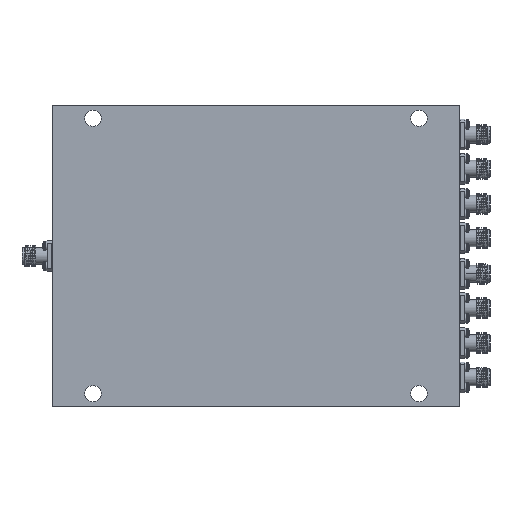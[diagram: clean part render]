
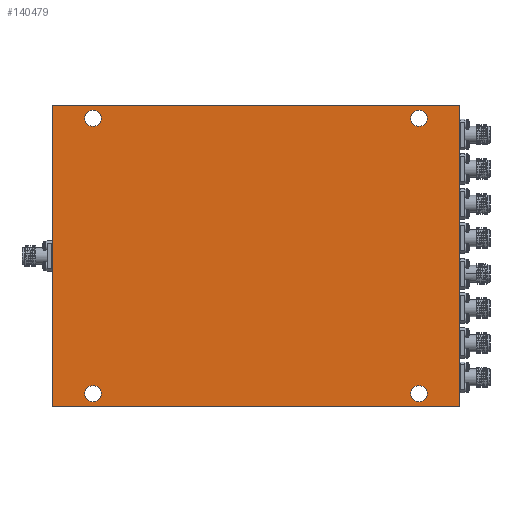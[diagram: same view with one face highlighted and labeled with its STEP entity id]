
A CAD part, front view. The second image highlights one B-rep face of the part: STEP entity #140479.
In plain terms, the highlighted planar face has unit normal (0, -1, 0).
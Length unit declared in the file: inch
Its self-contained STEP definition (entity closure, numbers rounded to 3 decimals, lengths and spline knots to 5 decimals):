
#1994 = CARTESIAN_POINT ( 'NONE',  ( -2.5, -0.215, -1.85 ) ) ;
#2261 = ORIENTED_EDGE ( 'NONE', *, *, #72868, .T. ) ;
#2352 = CIRCLE ( 'NONE', #4968, 0.1005 ) ;
#4951 = AXIS2_PLACEMENT_3D ( 'NONE', #95743, #93298, #146201 ) ;
#4968 = AXIS2_PLACEMENT_3D ( 'NONE', #78040, #118497, #93669 ) ;
#7968 = VERTEX_POINT ( 'NONE', #9770 ) ;
#8514 = ORIENTED_EDGE ( 'NONE', *, *, #133827, .F. ) ;
#9473 = CARTESIAN_POINT ( 'NONE',  ( 2., -0.215, -1.7905 ) ) ;
#9770 = CARTESIAN_POINT ( 'NONE',  ( -2., -0.215, -1.5895 ) ) ;
#11179 = FACE_BOUND ( 'NONE', #64420, .T. ) ;
#12744 = VERTEX_POINT ( 'NONE', #40597 ) ;
#13706 = CARTESIAN_POINT ( 'NONE',  ( 2., -0.215, -1.69 ) ) ;
#13783 = CIRCLE ( 'NONE', #97820, 0.1005 ) ;
#16881 = AXIS2_PLACEMENT_3D ( 'NONE', #85155, #135623, #121585 ) ;
#17128 = CARTESIAN_POINT ( 'NONE',  ( -2., -0.215, 1.5895 ) ) ;
#22470 = CIRCLE ( 'NONE', #35670, 0.1005 ) ;
#23481 = FACE_OUTER_BOUND ( 'NONE', #59602, .T. ) ;
#25792 = CARTESIAN_POINT ( 'NONE',  ( -2.5, -0.215, 1.85 ) ) ;
#26654 = EDGE_LOOP ( 'NONE', ( #161940, #93350 ) ) ;
#28186 = CARTESIAN_POINT ( 'NONE',  ( -2., -0.215, 1.7905 ) ) ;
#28405 = CARTESIAN_POINT ( 'NONE',  ( -2., -0.215, -1.69 ) ) ;
#29080 = CARTESIAN_POINT ( 'NONE',  ( -2.5, -0.215, -1.85 ) ) ;
#33509 = CARTESIAN_POINT ( 'NONE',  ( 2., -0.215, 1.69 ) ) ;
#34188 = AXIS2_PLACEMENT_3D ( 'NONE', #13706, #40045, #140607 ) ;
#35063 = FACE_BOUND ( 'NONE', #123959, .T. ) ;
#35670 = AXIS2_PLACEMENT_3D ( 'NONE', #106649, #154580, #129834 ) ;
#38484 = CARTESIAN_POINT ( 'NONE',  ( 2.5, -0.215, 1.85 ) ) ;
#40045 = DIRECTION ( 'NONE',  ( 0., 1., 0. ) ) ;
#40597 = CARTESIAN_POINT ( 'NONE',  ( 2., -0.215, -1.5895 ) ) ;
#46240 = EDGE_LOOP ( 'NONE', ( #139134, #156499 ) ) ;
#48673 = CARTESIAN_POINT ( 'NONE',  ( 2.5, -0.215, -1.85 ) ) ;
#51530 = DIRECTION ( 'NONE',  ( 0., 1., 0. ) ) ;
#54764 = DIRECTION ( 'NONE',  ( 0., 0., 1. ) ) ;
#55653 = VERTEX_POINT ( 'NONE', #48673 ) ;
#57396 = EDGE_CURVE ( 'NONE', #153682, #107265, #22470, .T. ) ;
#57872 = CIRCLE ( 'NONE', #34188, 0.1005 ) ;
#58111 = FACE_BOUND ( 'NONE', #26654, .T. ) ;
#58926 = PLANE ( 'NONE',  #16881 ) ;
#59602 = EDGE_LOOP ( 'NONE', ( #82626, #75457, #8514, #61006 ) ) ;
#60112 = CIRCLE ( 'NONE', #4951, 0.1005 ) ;
#60234 = ORIENTED_EDGE ( 'NONE', *, *, #114930, .T. ) ;
#60533 = CARTESIAN_POINT ( 'NONE',  ( 2., -0.215, 1.5895 ) ) ;
#61006 = ORIENTED_EDGE ( 'NONE', *, *, #132426, .F. ) ;
#64162 = VECTOR ( 'NONE', #143648, 39.37008 ) ;
#64420 = EDGE_LOOP ( 'NONE', ( #60234, #2261 ) ) ;
#70995 = VERTEX_POINT ( 'NONE', #85165 ) ;
#72868 = EDGE_CURVE ( 'NONE', #96454, #7968, #13783, .T. ) ;
#73264 = CIRCLE ( 'NONE', #86379, 0.1005 ) ;
#75005 = DIRECTION ( 'NONE',  ( 0., 1., 0. ) ) ;
#75457 = ORIENTED_EDGE ( 'NONE', *, *, #144174, .F. ) ;
#75949 = VERTEX_POINT ( 'NONE', #9473 ) ;
#78040 = CARTESIAN_POINT ( 'NONE',  ( 2., -0.215, -1.69 ) ) ;
#81953 = DIRECTION ( 'NONE',  ( 0., 1., 0. ) ) ;
#82626 = ORIENTED_EDGE ( 'NONE', *, *, #133450, .F. ) ;
#85155 = CARTESIAN_POINT ( 'NONE',  ( 0., -0.215, 0. ) ) ;
#85165 = CARTESIAN_POINT ( 'NONE',  ( -2.5, -0.215, -1.85 ) ) ;
#86379 = AXIS2_PLACEMENT_3D ( 'NONE', #126190, #75005, #99710 ) ;
#89099 = EDGE_CURVE ( 'NONE', #100410, #148161, #73264, .T. ) ;
#89171 = VECTOR ( 'NONE', #118026, 39.37008 ) ;
#90545 = EDGE_CURVE ( 'NONE', #75949, #12744, #2352, .T. ) ;
#91358 = AXIS2_PLACEMENT_3D ( 'NONE', #161938, #51530, #126505 ) ;
#93198 = LINE ( 'NONE', #29080, #64162 ) ;
#93227 = EDGE_CURVE ( 'NONE', #12744, #75949, #57872, .T. ) ;
#93298 = DIRECTION ( 'NONE',  ( 0., 1., 0. ) ) ;
#93350 = ORIENTED_EDGE ( 'NONE', *, *, #57396, .T. ) ;
#93669 = DIRECTION ( 'NONE',  ( 0., 0., 1. ) ) ;
#94115 = VECTOR ( 'NONE', #137970, 39.37008 ) ;
#95109 = CARTESIAN_POINT ( 'NONE',  ( 2., -0.215, 1.7905 ) ) ;
#95743 = CARTESIAN_POINT ( 'NONE',  ( -2., -0.215, -1.69 ) ) ;
#96004 = VERTEX_POINT ( 'NONE', #38484 ) ;
#96454 = VERTEX_POINT ( 'NONE', #153229 ) ;
#96908 = ORIENTED_EDGE ( 'NONE', *, *, #89099, .T. ) ;
#97820 = AXIS2_PLACEMENT_3D ( 'NONE', #28405, #128955, #54764 ) ;
#98897 = ORIENTED_EDGE ( 'NONE', *, *, #124086, .T. ) ;
#99710 = DIRECTION ( 'NONE',  ( 0., 0., 1. ) ) ;
#100410 = VERTEX_POINT ( 'NONE', #17128 ) ;
#100669 = CARTESIAN_POINT ( 'NONE',  ( -2.5, -0.215, 1.85 ) ) ;
#106649 = CARTESIAN_POINT ( 'NONE',  ( 2., -0.215, 1.69 ) ) ;
#107265 = VERTEX_POINT ( 'NONE', #95109 ) ;
#107883 = LINE ( 'NONE', #159017, #113111 ) ;
#113111 = VECTOR ( 'NONE', #144287, 39.37008 ) ;
#114930 = EDGE_CURVE ( 'NONE', #7968, #96454, #60112, .T. ) ;
#118026 = DIRECTION ( 'NONE',  ( 0., 0., 1. ) ) ;
#118497 = DIRECTION ( 'NONE',  ( 0., 1., 0. ) ) ;
#120766 = FACE_BOUND ( 'NONE', #46240, .T. ) ;
#121585 = DIRECTION ( 'NONE',  ( 0., 0., 1. ) ) ;
#123922 = CIRCLE ( 'NONE', #152916, 0.1005 ) ;
#123959 = EDGE_LOOP ( 'NONE', ( #98897, #96908 ) ) ;
#124086 = EDGE_CURVE ( 'NONE', #148161, #100410, #125702, .T. ) ;
#125702 = CIRCLE ( 'NONE', #91358, 0.1005 ) ;
#126078 = EDGE_CURVE ( 'NONE', #107265, #153682, #123922, .T. ) ;
#126190 = CARTESIAN_POINT ( 'NONE',  ( -2., -0.215, 1.69 ) ) ;
#126505 = DIRECTION ( 'NONE',  ( 0., 0., 1. ) ) ;
#128955 = DIRECTION ( 'NONE',  ( 0., 1., 0. ) ) ;
#129834 = DIRECTION ( 'NONE',  ( 0., 0., 1. ) ) ;
#132387 = DIRECTION ( 'NONE',  ( 0., 0., 1. ) ) ;
#132426 = EDGE_CURVE ( 'NONE', #137967, #96004, #138771, .T. ) ;
#133450 = EDGE_CURVE ( 'NONE', #70995, #137967, #142042, .T. ) ;
#133827 = EDGE_CURVE ( 'NONE', #96004, #55653, #107883, .T. ) ;
#135623 = DIRECTION ( 'NONE',  ( 0., 1., 0. ) ) ;
#137967 = VERTEX_POINT ( 'NONE', #25792 ) ;
#137970 = DIRECTION ( 'NONE',  ( 1., 0., 0. ) ) ;
#138771 = LINE ( 'NONE', #100669, #94115 ) ;
#139134 = ORIENTED_EDGE ( 'NONE', *, *, #93227, .T. ) ;
#140479 = ADVANCED_FACE ( 'NONE', ( #23481, #35063, #58111, #120766, #11179 ), #58926, .F. ) ;
#140607 = DIRECTION ( 'NONE',  ( 0., 0., 1. ) ) ;
#142042 = LINE ( 'NONE', #1994, #89171 ) ;
#143648 = DIRECTION ( 'NONE',  ( -1., 0., 0. ) ) ;
#144174 = EDGE_CURVE ( 'NONE', #55653, #70995, #93198, .T. ) ;
#144287 = DIRECTION ( 'NONE',  ( 0., 0., -1. ) ) ;
#146201 = DIRECTION ( 'NONE',  ( 0., 0., 1. ) ) ;
#148161 = VERTEX_POINT ( 'NONE', #28186 ) ;
#152916 = AXIS2_PLACEMENT_3D ( 'NONE', #33509, #81953, #132387 ) ;
#153229 = CARTESIAN_POINT ( 'NONE',  ( -2., -0.215, -1.7905 ) ) ;
#153682 = VERTEX_POINT ( 'NONE', #60533 ) ;
#154580 = DIRECTION ( 'NONE',  ( 0., 1., 0. ) ) ;
#156499 = ORIENTED_EDGE ( 'NONE', *, *, #90545, .T. ) ;
#159017 = CARTESIAN_POINT ( 'NONE',  ( 2.5, -0.215, -1.85 ) ) ;
#161938 = CARTESIAN_POINT ( 'NONE',  ( -2., -0.215, 1.69 ) ) ;
#161940 = ORIENTED_EDGE ( 'NONE', *, *, #126078, .T. ) ;
